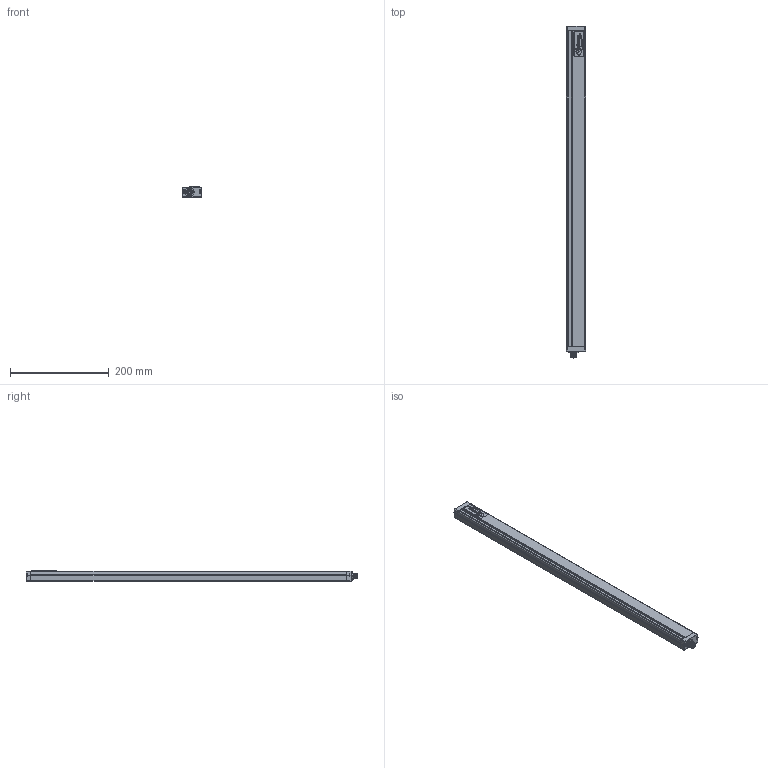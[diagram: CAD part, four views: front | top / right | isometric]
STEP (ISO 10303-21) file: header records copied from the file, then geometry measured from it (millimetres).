
FILE_DESCRIPTION(/* description */ (''),/* implementation_level */ '2;1');
FILE_NAME(/* name */ 'C:\Users\andre\SynologyDrive\Optoscan\Libreria Componenti\00 - Barriere\Barriera sorgente\Argo_640_TX.stp',/* time_stamp */ '2021-04-22T10:18:35+02:00',/* author */ ('andre'),/* organization */ (''),/* preprocessor_version */ 'ST-DEVELOPER v18',/* originating_system */ 'Autodesk Inventor 2020',/* authorisation */ '');
FILE_SCHEMA (('AUTOMOTIVE_DESIGN { 1 0 10303 214 3 1 1 }'));
Length unit declared in the file: millimetre
Products named in the file (1): Argo_640_TX
Bounding box: 40.5 x 673.3 x 20.75 mm (x, y, z)
Volume: 136075.4 mm3; surface area: 175017.8 mm2
Topology: 1 solids, 1 shells, 696 faces, 1911 edges, 1225 vertices
Faces by surface type: plane 321, cylinder 195, bspline 94, torus 72, cone 8, sphere 6
Full cylindrical faces by diameter (mm): 1 x4, 2.459 x4, 2.5 x4, 3 x4, 3.5 x4, 5.5 x4, 8 x1, 10.5 x2, 11.75 x9, 15.7 x1, 17.5 x1
Entity records: 30770 total; most frequent: CARTESIAN_POINT 12670, ORIENTED_EDGE 3806, DIRECTION 3415, EDGE_CURVE 1903, VERTEX_POINT 1225, AXIS2_PLACEMENT_3D 1193, LINE 1029, VECTOR 1029
